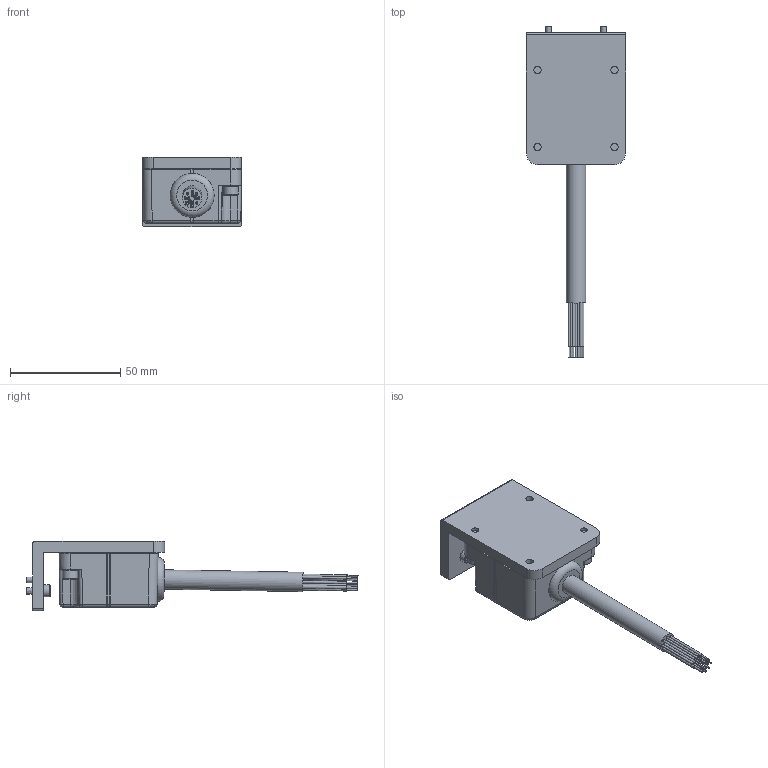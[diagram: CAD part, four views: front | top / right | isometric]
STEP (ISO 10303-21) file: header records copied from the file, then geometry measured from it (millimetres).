
FILE_DESCRIPTION(('STEP AP214'),'1');
FILE_NAME('KHB-7RS-NN12,NP12_ver1.stp','2026-04-27T00:28:54',(' '),(' '),'Spatial InterOp 3D',' ',' ');
FILE_SCHEMA(('AUTOMOTIVE_DESIGN { 1 0 10303 214 1 1 1 1 }'));
Length unit declared in the file: millimetre
Products named in the file (1): KHB-7RS-NN12,NP12_ver1
Bounding box: 45 x 150.84 x 31.5 mm (x, y, z)
Volume: 70531.2 mm3; surface area: 21019.3 mm2
Topology: 1 solids, 3 shells, 270 faces, 598 edges, 385 vertices
Faces by surface type: plane 117, cylinder 104, cone 18, bspline 16, torus 11, sphere 4
Full cylindrical faces by diameter (mm): 0.6 x12, 1 x14, 1.5 x2, 2.5 x4, 3.3 x4, 3.5 x2, 4.4 x2, 5.41 x2, 6 x2, 6.9 x2, 8.8 x1
Entity records: 9601 total; most frequent: CARTESIAN_POINT 1850, DIRECTION 1175, ORIENTED_EDGE 1024, EDGE_CURVE 512, AXIS2_PLACEMENT_3D 472, EDGE_LOOP 395, VERTEX_POINT 359, FACE_OUTER_BOUND 318
